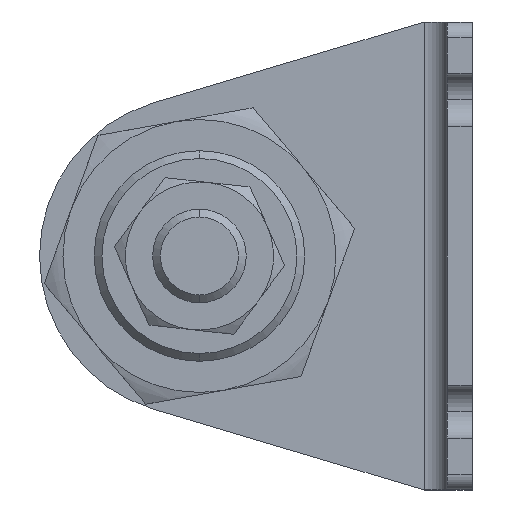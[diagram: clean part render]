
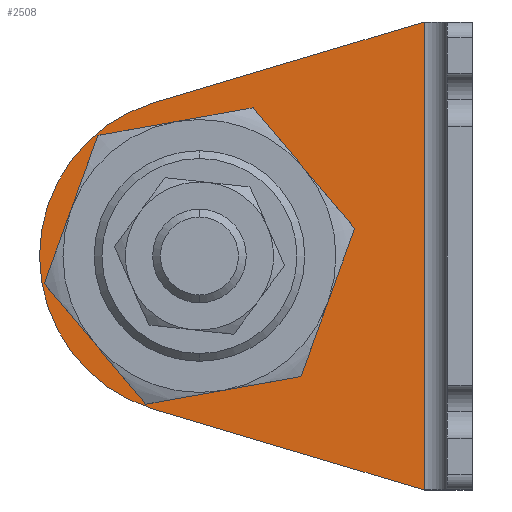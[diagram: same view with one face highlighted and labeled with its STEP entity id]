
A CAD part, left-side view. The second image highlights one B-rep face of the part: STEP entity #2508.
In plain terms, the highlighted planar face has unit normal (-1, 0, 0) as drawn and (1, 0, 0) by its records, which use the part's own axes.
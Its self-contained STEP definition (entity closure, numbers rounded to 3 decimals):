
#70 = AXIS2_PLACEMENT_3D ( 'NONE', #3524, #361, #2122 ) ;
#192 = LINE ( 'NONE', #664, #1222 ) ;
#216 = VERTEX_POINT ( 'NONE', #4475 ) ;
#226 = CARTESIAN_POINT ( 'NONE',  ( 3.2, 40.868, -10.358 ) ) ;
#347 = EDGE_CURVE ( 'NONE', #3151, #2176, #4750, .T. ) ;
#361 = DIRECTION ( 'NONE',  ( 1., 0., 0. ) ) ;
#368 = VERTEX_POINT ( 'NONE', #737 ) ;
#384 = CIRCLE ( 'NONE', #3468, 20.5 ) ;
#661 = VERTEX_POINT ( 'NONE', #1908 ) ;
#664 = CARTESIAN_POINT ( 'NONE',  ( 3.2, 6.2, -60. ) ) ;
#737 = CARTESIAN_POINT ( 'NONE',  ( 3.2, 6.2, 0. ) ) ;
#856 = CARTESIAN_POINT ( 'NONE',  ( 3.2, 35., -30. ) ) ;
#869 = EDGE_CURVE ( 'NONE', #368, #661, #192, .T. ) ;
#932 = DIRECTION ( 'NONE',  ( 0., 1., 0. ) ) ;
#948 = VECTOR ( 'NONE', #1517, 1000. ) ;
#1162 = EDGE_CURVE ( 'NONE', #368, #4682, #3628, .T. ) ;
#1222 = VECTOR ( 'NONE', #2279, 1000. ) ;
#1239 = EDGE_LOOP ( 'NONE', ( #4059, #2949 ) ) ;
#1340 = DIRECTION ( 'NONE',  ( 0., 1., 0. ) ) ;
#1433 = ORIENTED_EDGE ( 'NONE', *, *, #1591, .T. ) ;
#1438 = AXIS2_PLACEMENT_3D ( 'NONE', #856, #3414, #932 ) ;
#1464 = EDGE_LOOP ( 'NONE', ( #1544, #2770, #1433, #3900, #4655 ) ) ;
#1509 = CIRCLE ( 'NONE', #1438, 20.5 ) ;
#1517 = DIRECTION ( 'NONE',  ( 0., 0.958, -0.286 ) ) ;
#1544 = ORIENTED_EDGE ( 'NONE', *, *, #2605, .T. ) ;
#1591 = EDGE_CURVE ( 'NONE', #216, #4682, #384, .T. ) ;
#1596 = FACE_OUTER_BOUND ( 'NONE', #1464, .T. ) ;
#1908 = CARTESIAN_POINT ( 'NONE',  ( 3.2, 6.2, -60. ) ) ;
#2041 = DIRECTION ( 'NONE',  ( 1., 0., 0. ) ) ;
#2121 = PLANE ( 'NONE',  #2947 ) ;
#2122 = DIRECTION ( 'NONE',  ( 0., 1., 0. ) ) ;
#2152 = DIRECTION ( 'NONE',  ( 1., 0., 0. ) ) ;
#2176 = VERTEX_POINT ( 'NONE', #2475 ) ;
#2279 = DIRECTION ( 'NONE',  ( 0., 0., -1. ) ) ;
#2374 = CARTESIAN_POINT ( 'NONE',  ( 3.2, 3.446, -60.823 ) ) ;
#2475 = CARTESIAN_POINT ( 'NONE',  ( 3.2, 48.5, -30. ) ) ;
#2508 = ADVANCED_FACE ( 'NONE', ( #3658, #1596 ), #2121, .T. ) ;
#2530 = LINE ( 'NONE', #2374, #3543 ) ;
#2581 = CIRCLE ( 'NONE', #4597, 13.5 ) ;
#2605 = EDGE_CURVE ( 'NONE', #661, #4585, #2530, .T. ) ;
#2770 = ORIENTED_EDGE ( 'NONE', *, *, #4428, .T. ) ;
#2916 = CARTESIAN_POINT ( 'NONE',  ( 3.2, 21.5, -30. ) ) ;
#2945 = DIRECTION ( 'NONE',  ( 0., 1., 0. ) ) ;
#2947 = AXIS2_PLACEMENT_3D ( 'NONE', #4411, #3227, #3152 ) ;
#2949 = ORIENTED_EDGE ( 'NONE', *, *, #347, .F. ) ;
#3145 = CARTESIAN_POINT ( 'NONE',  ( 3.2, 35., -30. ) ) ;
#3151 = VERTEX_POINT ( 'NONE', #2916 ) ;
#3152 = DIRECTION ( 'NONE',  ( 0., 1., 0. ) ) ;
#3227 = DIRECTION ( 'NONE',  ( 1., 0., 0. ) ) ;
#3410 = CARTESIAN_POINT ( 'NONE',  ( 3.2, 40.868, -49.642 ) ) ;
#3414 = DIRECTION ( 'NONE',  ( 1., 0., 0. ) ) ;
#3468 = AXIS2_PLACEMENT_3D ( 'NONE', #3145, #2041, #1340 ) ;
#3524 = CARTESIAN_POINT ( 'NONE',  ( 3.2, 35., -30. ) ) ;
#3543 = VECTOR ( 'NONE', #3626, 1000. ) ;
#3626 = DIRECTION ( 'NONE',  ( 0., 0.958, 0.286 ) ) ;
#3628 = LINE ( 'NONE', #3793, #948 ) ;
#3650 = CARTESIAN_POINT ( 'NONE',  ( 3.2, 35., -30. ) ) ;
#3658 = FACE_BOUND ( 'NONE', #1239, .T. ) ;
#3793 = CARTESIAN_POINT ( 'NONE',  ( 3.2, 19.903, -4.094 ) ) ;
#3900 = ORIENTED_EDGE ( 'NONE', *, *, #1162, .F. ) ;
#4059 = ORIENTED_EDGE ( 'NONE', *, *, #4778, .F. ) ;
#4411 = CARTESIAN_POINT ( 'NONE',  ( 3.2, 3.2, -60. ) ) ;
#4428 = EDGE_CURVE ( 'NONE', #4585, #216, #1509, .T. ) ;
#4475 = CARTESIAN_POINT ( 'NONE',  ( 3.2, 55.5, -30. ) ) ;
#4585 = VERTEX_POINT ( 'NONE', #3410 ) ;
#4597 = AXIS2_PLACEMENT_3D ( 'NONE', #3650, #2152, #2945 ) ;
#4655 = ORIENTED_EDGE ( 'NONE', *, *, #869, .T. ) ;
#4682 = VERTEX_POINT ( 'NONE', #226 ) ;
#4750 = CIRCLE ( 'NONE', #70, 13.5 ) ;
#4778 = EDGE_CURVE ( 'NONE', #2176, #3151, #2581, .T. ) ;
